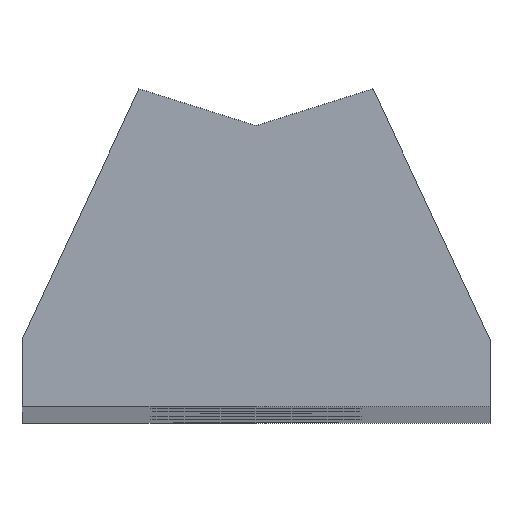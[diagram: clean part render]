
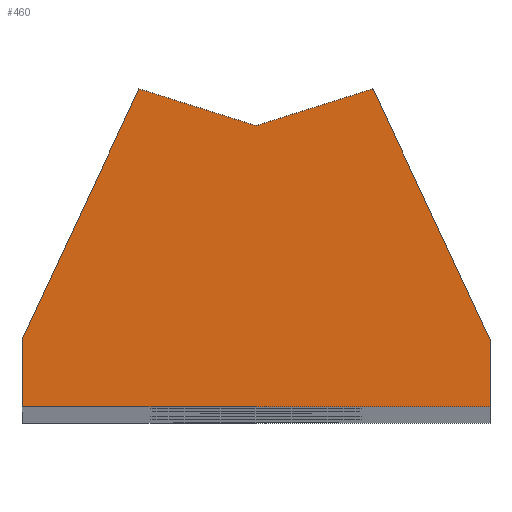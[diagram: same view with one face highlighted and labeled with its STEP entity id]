
A CAD part, top view. The second image highlights one B-rep face of the part: STEP entity #460.
In plain terms, the highlighted planar face has unit normal (0, 0, 1).
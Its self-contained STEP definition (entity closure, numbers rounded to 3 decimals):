
#16 = CARTESIAN_POINT ( 'NONE',  ( 0., 0., 299.75 ) ) ;
#25 = ORIENTED_EDGE ( 'NONE', *, *, #330, .T. ) ;
#53 = ORIENTED_EDGE ( 'NONE', *, *, #165, .T. ) ;
#66 = VECTOR ( 'NONE', #614, 1000. ) ;
#68 = DIRECTION ( 'NONE',  ( -0.423, 0.906, 0. ) ) ;
#83 = CARTESIAN_POINT ( 'NONE',  ( 0., 18.029, 299.75 ) ) ;
#92 = VECTOR ( 'NONE', #68, 1000. ) ;
#97 = VERTEX_POINT ( 'NONE', #360 ) ;
#100 = ORIENTED_EDGE ( 'NONE', *, *, #235, .T. ) ;
#112 = DIRECTION ( 'NONE',  ( 0., -1., 0. ) ) ;
#118 = VERTEX_POINT ( 'NONE', #126 ) ;
#121 = VECTOR ( 'NONE', #491, 1000. ) ;
#122 = DIRECTION ( 'NONE',  ( -0.954, 0.301, 0. ) ) ;
#126 = CARTESIAN_POINT ( 'NONE',  ( 15., 4.31, 299.75 ) ) ;
#149 = VERTEX_POINT ( 'NONE', #83 ) ;
#165 = EDGE_CURVE ( 'NONE', #97, #336, #372, .T. ) ;
#183 = CARTESIAN_POINT ( 'NONE',  ( 15., 0., 299.75 ) ) ;
#190 = VERTEX_POINT ( 'NONE', #861 ) ;
#193 = LINE ( 'NONE', #219, #92 ) ;
#195 = ORIENTED_EDGE ( 'NONE', *, *, #721, .T. ) ;
#219 = CARTESIAN_POINT ( 'NONE',  ( 15., 4.31, 299.75 ) ) ;
#234 = PLANE ( 'NONE',  #627 ) ;
#235 = EDGE_CURVE ( 'NONE', #830, #149, #277, .T. ) ;
#247 = LINE ( 'NONE', #183, #826 ) ;
#260 = DIRECTION ( 'NONE',  ( 0., 1., 0. ) ) ;
#277 = LINE ( 'NONE', #867, #66 ) ;
#307 = ORIENTED_EDGE ( 'NONE', *, *, #700, .T. ) ;
#309 = CARTESIAN_POINT ( 'NONE',  ( -15., 4.31, 299.75 ) ) ;
#330 = EDGE_CURVE ( 'NONE', #149, #190, #793, .T. ) ;
#336 = VERTEX_POINT ( 'NONE', #465 ) ;
#343 = CARTESIAN_POINT ( 'NONE',  ( -15., 4.31, 299.75 ) ) ;
#360 = CARTESIAN_POINT ( 'NONE',  ( -15., 0., 299.75 ) ) ;
#364 = FACE_OUTER_BOUND ( 'NONE', #410, .T. ) ;
#372 = LINE ( 'NONE', #449, #668 ) ;
#392 = LINE ( 'NONE', #343, #851 ) ;
#401 = VECTOR ( 'NONE', #122, 1000. ) ;
#410 = EDGE_LOOP ( 'NONE', ( #25, #800, #195, #53, #638, #307, #100 ) ) ;
#411 = LINE ( 'NONE', #494, #121 ) ;
#449 = CARTESIAN_POINT ( 'NONE',  ( -15., 0., 299.75 ) ) ;
#460 = ADVANCED_FACE ( 'NONE', ( #364 ), #234, .T. ) ;
#465 = CARTESIAN_POINT ( 'NONE',  ( 15., 0., 299.75 ) ) ;
#491 = DIRECTION ( 'NONE',  ( -0.423, -0.906, 0. ) ) ;
#494 = CARTESIAN_POINT ( 'NONE',  ( -7.5, 20.394, 299.75 ) ) ;
#571 = DIRECTION ( 'NONE',  ( 1., 0., 0. ) ) ;
#573 = EDGE_CURVE ( 'NONE', #336, #118, #247, .T. ) ;
#586 = CARTESIAN_POINT ( 'NONE',  ( 0., 18.029, 299.75 ) ) ;
#587 = VERTEX_POINT ( 'NONE', #309 ) ;
#614 = DIRECTION ( 'NONE',  ( -0.954, -0.301, 0. ) ) ;
#627 = AXIS2_PLACEMENT_3D ( 'NONE', #16, #839, #776 ) ;
#638 = ORIENTED_EDGE ( 'NONE', *, *, #573, .T. ) ;
#668 = VECTOR ( 'NONE', #571, 1000. ) ;
#700 = EDGE_CURVE ( 'NONE', #118, #830, #193, .T. ) ;
#721 = EDGE_CURVE ( 'NONE', #587, #97, #392, .T. ) ;
#776 = DIRECTION ( 'NONE',  ( 1., 0., 0. ) ) ;
#793 = LINE ( 'NONE', #586, #401 ) ;
#800 = ORIENTED_EDGE ( 'NONE', *, *, #822, .T. ) ;
#822 = EDGE_CURVE ( 'NONE', #190, #587, #411, .T. ) ;
#826 = VECTOR ( 'NONE', #260, 1000. ) ;
#830 = VERTEX_POINT ( 'NONE', #833 ) ;
#833 = CARTESIAN_POINT ( 'NONE',  ( 7.5, 20.394, 299.75 ) ) ;
#839 = DIRECTION ( 'NONE',  ( 0., 0., 1. ) ) ;
#851 = VECTOR ( 'NONE', #112, 1000. ) ;
#861 = CARTESIAN_POINT ( 'NONE',  ( -7.5, 20.394, 299.75 ) ) ;
#867 = CARTESIAN_POINT ( 'NONE',  ( 7.5, 20.394, 299.75 ) ) ;
